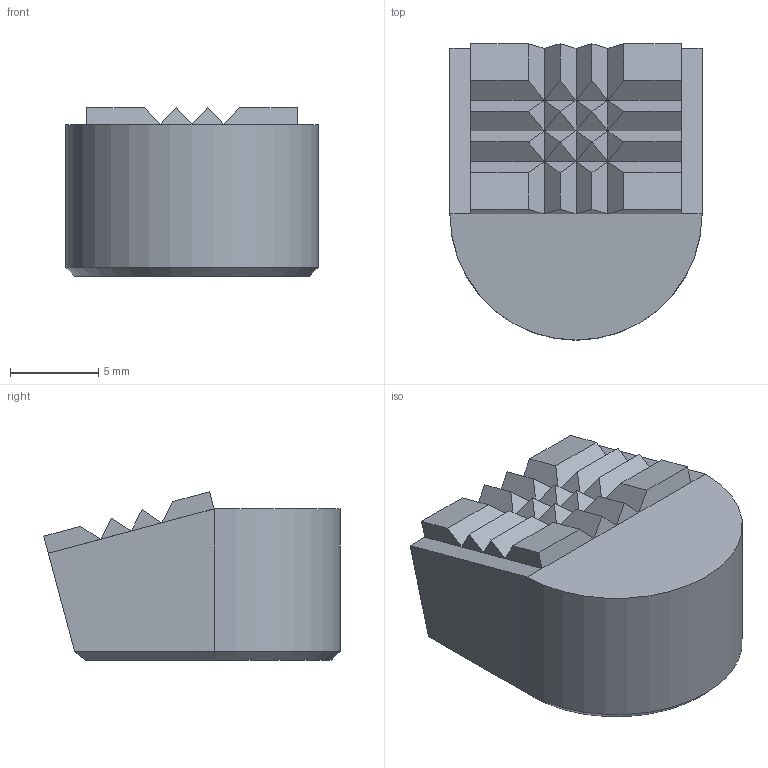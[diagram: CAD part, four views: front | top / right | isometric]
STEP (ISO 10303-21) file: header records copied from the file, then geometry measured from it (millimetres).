
FILE_DESCRIPTION((''),'2;1');
FILE_NAME('3535W002.stp','2001-03-30T13:05:31',(''),(''),'AutoCAD STEP 2000i','AutoCAD 2000i',', , ');
FILE_SCHEMA(('CONFIG_CONTROL_DESIGN'));
Length unit declared in the file: millimetre
Products named in the file (2): 3535B-MDTA; 3535B-MDT
Assembly tree (1 placements, depth 2):
  3535B-MDTA
    3535B-MDT
Bounding box: 14.28 x 16.77 x 9.53 mm (x, y, z)
Volume: 1515.8 mm3; surface area: 984.4 mm2
Topology: 1 solids, 1 shells, 80 faces, 159 edges, 80 vertices
Faces by surface type: plane 74, cylinder 3, cone 3
Entity records: 2025 total; most frequent: DIRECTION 328, CARTESIAN_POINT 319, ORIENTED_EDGE 314, EDGE_CURVE 157, VECTOR 150, LINE 150, AXIS2_PLACEMENT_3D 89, EDGE_LOOP 81
